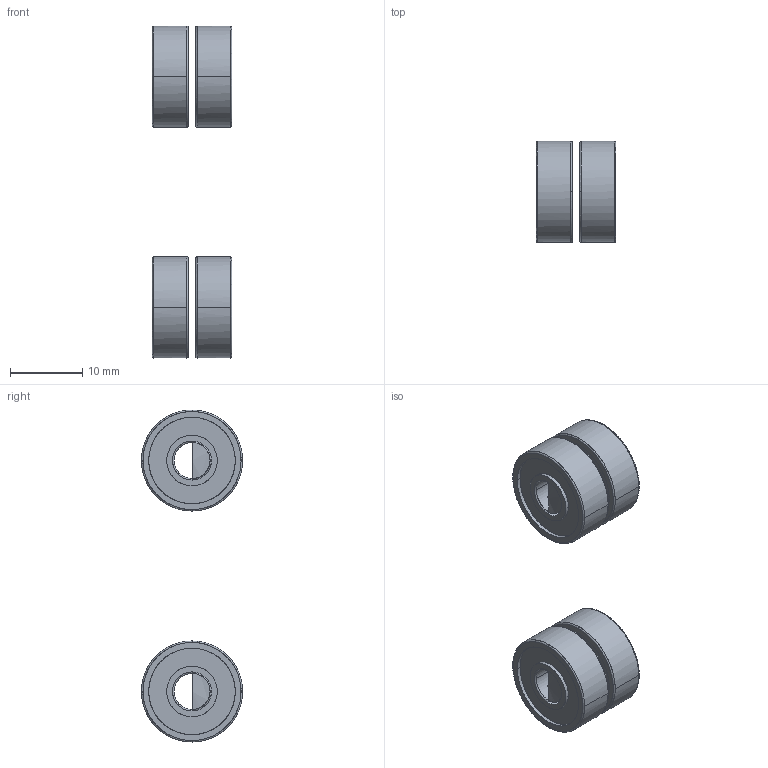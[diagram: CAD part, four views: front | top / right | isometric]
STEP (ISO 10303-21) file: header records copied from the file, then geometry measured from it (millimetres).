
FILE_DESCRIPTION(/* description */ (''),/* implementation_level */ '2;1');
FILE_NAME(/* name */ '6.y-drive#6.6#B605ZZ',/* time_stamp */ '2014-12-01T20:15:02+01:00',/* author */ (''),/* organization */ (''),/* preprocessor_version */ 'ST-DEVELOPER v14',/* originating_system */ '',/* authorisation */ '');
FILE_SCHEMA (('AUTOMOTIVE_DESIGN'));
Length unit declared in the file: millimetre
Products named in the file (1): Document
Bounding box: 11 x 14 x 46 mm (x, y, z)
Surface area: 2468.6 mm2 (no closed solid volume)
Topology: 0 solids, 104 shells, 104 faces, 368 edges, 364 vertices
Faces by surface type: bspline 80, plane 24
Entity records: 10735 total; most frequent: CARTESIAN_POINT 6537, B_SPLINE_CURVE_WITH_KNOTS 412, ORIENTED_EDGE 364, PCURVE 364, DEFINITIONAL_REPRESENTATION 364, SURFACE_CURVE 364, EDGE_CURVE 364, VERTEX_POINT 364
